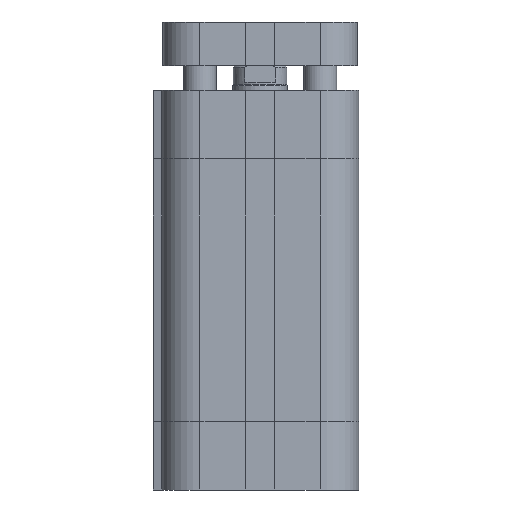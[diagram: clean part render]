
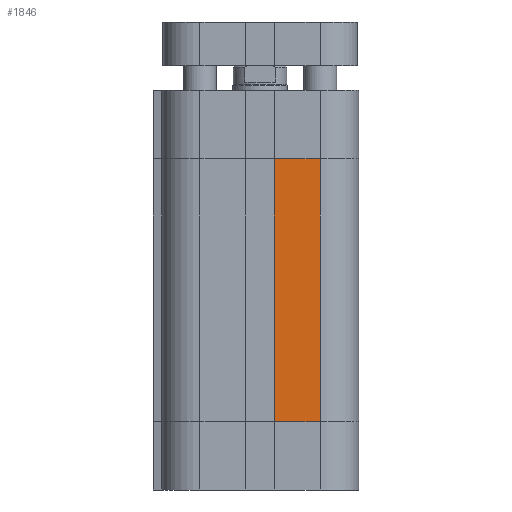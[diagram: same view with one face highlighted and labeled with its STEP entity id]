
A CAD part, left-side view. The second image highlights one B-rep face of the part: STEP entity #1846.
In plain terms, the highlighted planar face has unit normal (-1, 0, 0).
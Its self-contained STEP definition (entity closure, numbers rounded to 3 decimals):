
#1759=CARTESIAN_POINT('',(-18.0,-2.6,12.5));
#1760=VERTEX_POINT('',#1759);
#1767=CARTESIAN_POINT('',(-18.0,-2.6,60.5));
#1768=VERTEX_POINT('',#1767);
#1769=CARTESIAN_POINT('',(-18.0,-2.6,12.5));
#1770=DIRECTION('',(0.0,0.0,1.0));
#1771=VECTOR('',#1770,48.);
#1772=LINE('',#1769,#1771);
#1773=EDGE_CURVE('',#1760,#1768,#1772,.T.);
#1816=CARTESIAN_POINT('',(-18.,-11.0,0.0));
#1817=DIRECTION('',(-1.0,0.0,0.0));
#1818=DIRECTION('',(0.0,0.0,1.0));
#1819=AXIS2_PLACEMENT_3D('',#1816,#1817,#1818);
#1820=PLANE('',#1819);
#1821=CARTESIAN_POINT('',(-18.,-11.0,12.5));
#1822=VERTEX_POINT('',#1821);
#1823=CARTESIAN_POINT('',(-18.0,-2.6,12.5));
#1824=DIRECTION('',(0.0,-1.0,0.0));
#1825=VECTOR('',#1824,8.4);
#1826=LINE('',#1823,#1825);
#1827=EDGE_CURVE('',#1760,#1822,#1826,.T.);
#1828=ORIENTED_EDGE('',*,*,#1827,.T.);
#1829=CARTESIAN_POINT('',(-18.,-11.0,60.5));
#1830=VERTEX_POINT('',#1829);
#1831=CARTESIAN_POINT('',(-18.,-11.0,12.5));
#1832=DIRECTION('',(0.0,0.0,1.0));
#1833=VECTOR('',#1832,48.);
#1834=LINE('',#1831,#1833);
#1835=EDGE_CURVE('',#1822,#1830,#1834,.T.);
#1836=ORIENTED_EDGE('',*,*,#1835,.T.);
#1837=CARTESIAN_POINT('',(-18.0,-2.6,60.5));
#1838=DIRECTION('',(0.0,-1.0,0.0));
#1839=VECTOR('',#1838,8.4);
#1840=LINE('',#1837,#1839);
#1841=EDGE_CURVE('',#1768,#1830,#1840,.T.);
#1842=ORIENTED_EDGE('',*,*,#1841,.F.);
#1843=ORIENTED_EDGE('',*,*,#1773,.F.);
#1844=EDGE_LOOP('',(#1828,#1836,#1842,#1843));
#1845=FACE_OUTER_BOUND('',#1844,.T.);
#1846=ADVANCED_FACE('',(#1845),#1820,.T.);
